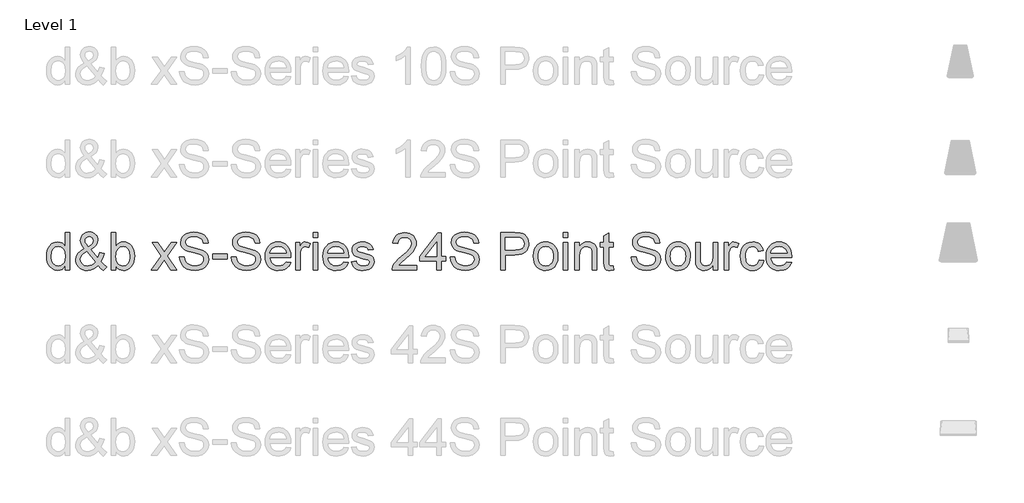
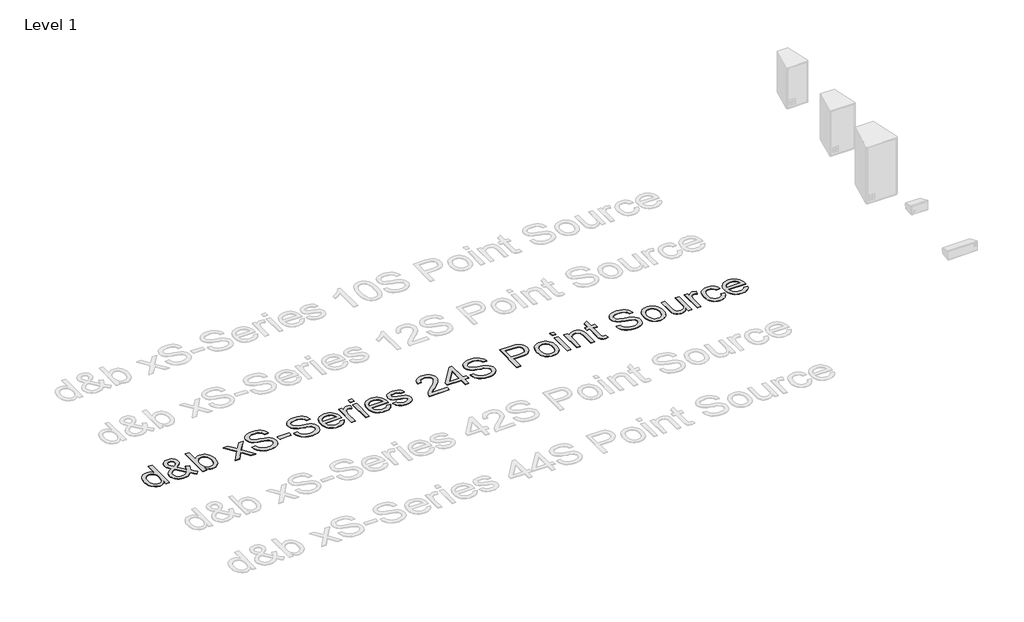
# One storey, part 45 of 55: 1 proxy.
"""IFC4 building model written with IfcOpenShell, lengths in millimetres."""

from ifc_helpers import new_model, si_unit, origin, origin_with_axes, place, context, project, spatial, polyline, outline, extrude, element, save

model = new_model("IFC4")

# Units and contexts
model_context = context("Model", 3, world=origin())
ifc_project = project(units=[si_unit("LENGTHUNIT", "METRE", prefix="MILLI")], contexts=[model_context])

# Site, building, storey
site = spatial("IfcSite", under=ifc_project)
building = spatial("IfcBuilding", under=site)
storey = spatial("IfcBuildingStorey", under=building, Name="Level 1", Elevation=0.0)

# Proxy
placement = place(None, origin())
element("IfcBuildingElementProxy", 1, Name="400mm Arial", ObjectType="400mm Arial", at=placement, inside=storey, context=model_context, shape_type="SweptSolid", body=[
    extrude(outline(polyline([(-20879.8211974, 11351.3054836), (-20879.8211974, 11398.6886846), (-20894.8491769, 11375.2116819), (-20913.0532043, 11358.4423943), (-20934.4332796, 11348.3808217), (-20958.9894028, 11345.0269642), (-20991.4611202, 11349.8830065), (-21021.1859854, 11364.4511335), (-21046.3491139, 11387.7135384), (-21065.1356211, 11418.6524142), (-21076.8342686, 11456.0169621), (-21080.7338177, 11498.5563835), (-21077.1408369, 11540.5685074), (-21066.3618944, 11578.5094038), (-21048.4092531, 11610.2208318), (-21023.2951755, 11633.5445503), (-20992.9203855, 11647.8919481), (-20959.1856065, 11652.674414), (-20934.6110892, 11649.2531115), (-20912.8815261, 11638.9892038), (-20894.4629008, 11623.2561171), (-20879.8211974, 11603.4272776), (-20879.8211974, 11753.1307242), (-20829.5930424, 11753.1307242), (-20829.5930424, 11351.3054836), (-20879.8211974, 11351.3054836)]), holes=[polyline([(-21030.5056627, 11498.7525872), (-21029.089317, 11474.3957335), (-21024.8402799, 11453.3191608), (-21017.7585515, 11435.5228693), (-21007.8441318, 11421.0068589), (-20983.1469871, 11401.6930542), (-20969.2717046, 11396.864603), (-20954.3786151, 11395.2551193), (-20939.415015, 11396.7910266), (-20925.6225058, 11401.3987486), (-20901.5507606, 11419.8296365), (-20892.0440767, 11433.7386416), (-20885.2535882, 11450.8911397), (-20879.8211974, 11494.9266145), (-20885.3516901, 11543.0701049), (-20892.2648059, 11561.6052261), (-20901.9431681, 11576.4492646), (-20913.6448812, 11587.8229496), (-20926.6280499, 11595.9470104), (-20940.8926743, 11600.8214468), (-20956.4387543, 11602.4462589), (-20971.6261493, 11600.8858262), (-20985.5014319, 11596.2045278), (-20998.064602, 11588.4023638), (-21009.3156597, 11577.4793342), (-21018.586286, 11563.1963157), (-21025.2081619, 11545.3141851), (-21030.5056627, 11498.7525872)])]), origin_with_axes(), (0.0, 0.0, 1.0), 5.0),
    extrude(outline(polyline([(-20523.809528, 11400.9450275), (-20549.3405384, 11376.4808748), (-20577.0788409, 11359.00648), (-20607.0734862, 11348.5218431), (-20639.3735254, 11345.0269642), (-20668.6814577, 11347.6144009), (-20694.8010793, 11355.376711), (-20717.7323904, 11368.3138945), (-20737.4753908, 11386.4259514), (-20750.308341, 11403.7961129), (-20759.4747341, 11422.1595558), (-20764.9745699, 11441.5162802), (-20766.8078485, 11461.8662859), (-20760.9094739, 11497.0603301), (-20743.2143499, 11528.6736562), (-20713.796053, 11556.6817387), (-20672.7281596, 11581.0600523), (-20694.6416638, 11609.4114914), (-20707.7995765, 11631.8768186), (-20714.3846642, 11651.0557332), (-20716.5796934, 11669.5479349), (-20714.8506481, 11687.1020374), (-20709.6635119, 11703.4666548), (-20701.018285, 11718.6417871), (-20688.9149674, 11732.6274343), (-20674.1935562, 11744.3444759), (-20657.6940487, 11752.7137912), (-20639.4164449, 11757.7353805), (-20619.3607448, 11759.4092436), (-20600.212487, 11757.8089569), (-20582.8913764, 11753.0080968), (-20567.397413, 11745.0066634), (-20553.7305969, 11733.8046567), (-20542.5715097, 11720.3585698), (-20534.6007332, 11705.6248959), (-20529.8182672, 11689.603635), (-20528.2241119, 11672.2947871), (-20532.9452642, 11644.31123), (-20547.108721, 11618.436863), (-20570.7144823, 11594.6716861), (-20603.7625482, 11573.0156993), (-20531.069066, 11482.4676776), (-20518.6837055, 11508.3420446), (-20509.3885538, 11538.0914353), (-20459.1603987, 11527.2021282), (-20474.6114425, 11480.6773185), (-20494.6732739, 11444.5022557), (-20466.1256311, 11411.1966724), (-20434.0463211, 11383.6790991), (-20471.7174374, 11345.0269642), (-20497.3465498, 11368.47331), (-20523.809528, 11400.9450275)]), holes=[polyline([(-20557.4584678, 11437.1446158), (-20647.1235727, 11549.0788442), (-20681.3733865, 11527.2266537), (-20702.305872, 11506.9931439), (-20713.0112381, 11487.6670765), (-20716.5796934, 11468.5372127), (-20711.6991256, 11444.8456122), (-20697.0574222, 11420.2710949), (-20686.2784798, 11409.3266056), (-20673.4639236, 11401.5091132), (-20658.6137537, 11396.8186177), (-20641.7279702, 11395.2551193), (-20619.0051256, 11398.1736498), (-20595.5710425, 11406.9292412), (-20574.1480476, 11420.3201459), (-20557.4584678, 11437.1446158)]), polyline([(-20629.1709314, 11604.7026019), (-20602.9041569, 11621.3676562), (-20587.8700461, 11635.8499441), (-20580.8067117, 11649.9398245), (-20578.452267, 11665.4276565), (-20581.5547385, 11682.9756277), (-20590.862153, 11696.9674062), (-20604.829406, 11706.1276679), (-20621.9113933, 11709.1810885), (-20639.3612626, 11706.1521934), (-20653.6473468, 11697.0655081), (-20663.1754905, 11683.6132898), (-20666.3515384, 11667.4877957), (-20662.0350563, 11649.0936959), (-20648.9875082, 11628.639457), (-20629.1709314, 11604.7026019)])]), origin_with_axes(), (0.0, 0.0, 1.0), 5.0),
    extrude(outline(polyline([(-20333.590011, 11351.3054836), (-20383.8181661, 11351.3054836), (-20383.8181661, 11753.1307242), (-20333.590011, 11753.1307242), (-20333.590011, 11604.1139907), (-20317.0721094, 11625.3591759), (-20298.4204923, 11640.5343082), (-20277.6351595, 11649.6393876), (-20254.7161112, 11652.674414), (-20228.8417442, 11649.9398245), (-20204.3898543, 11641.736056), (-20182.758393, 11628.5781433), (-20165.3453119, 11610.9811212), (-20151.6968898, 11589.116668), (-20141.3594058, 11563.1564619), (-20134.8478945, 11534.1796234), (-20132.6773907, 11503.265273), (-20134.9245365, 11467.5929822), (-20141.6659741, 11436.2126481), (-20152.9017034, 11409.1242705), (-20168.6317244, 11386.3278495), (-20187.5132678, 11368.2587122), (-20208.2035643, 11355.3521855), (-20230.702614, 11347.6082695), (-20255.0104168, 11345.0269642), (-20278.6836232, 11348.3562962), (-20299.671291, 11358.3442924), (-20317.9734203, 11374.9909527), (-20333.590011, 11398.2962771), (-20333.590011, 11351.3054836)]), holes=[polyline([(-20333.590011, 11500.9108283), (-20330.1564457, 11459.0213318), (-20319.8557498, 11430.6698927), (-20307.6849872, 11415.1759293), (-20293.5399244, 11404.1088126), (-20277.4205617, 11397.4685426), (-20259.3268989, 11395.2551193), (-20244.3050508, 11396.8860628), (-20230.3377977, 11401.7788933), (-20217.4251396, 11409.9336109), (-20205.5670767, 11421.3502155), (-20195.6526569, 11435.9980502), (-20188.5709285, 11453.8464584), (-20184.3218914, 11474.8954399), (-20182.9055458, 11499.1449947), (-20188.3379366, 11545.1057186), (-20195.1284251, 11562.8989445), (-20204.6351089, 11577.2340795), (-20216.0670419, 11588.264408), (-20228.6332778, 11596.1432141), (-20242.3338164, 11600.8704977), (-20257.1686579, 11602.4462589), (-20272.190506, 11600.8153154), (-20286.1577591, 11595.9224849), (-20299.0704171, 11587.7677673), (-20310.9284801, 11576.3511628), (-20320.8428999, 11561.8504808), (-20327.9246283, 11544.443531), (-20332.1736653, 11524.1303135), (-20333.590011, 11500.9108283)])]), origin_with_axes(), (0.0, 0.0, 1.0), 5.0),
    extrude(outline(polyline([(-19950.6003285, 11351.3054836), (-19843.2768878, 11499.7336059), (-19944.3218092, 11646.3958946), (-19884.0872638, 11646.3958946), (-19835.3306367, 11575.6644497), (-19812.4729021, 11542.4079173), (-19792.6563253, 11569.6802359), (-19737.1306695, 11646.3958946), (-19676.6999204, 11646.3958946), (-19782.8461387, 11499.635504), (-19680.623995, 11351.3054836), (-19740.9566422, 11351.3054836), (-19802.5646137, 11440.5781811), (-19813.7482263, 11456.9611926), (-19890.1695795, 11351.3054836), (-19950.6003285, 11351.3054836)])), origin_with_axes(), (0.0, 0.0, 1.0), 5.0),
    extrude(outline(polyline([(-19649.2313981, 11489.43291), (-19599.003243, 11489.43291), (-19593.2397584, 11461.5597175), (-19582.8164352, 11439.155704), (-19566.556051, 11421.3747409), (-19543.2813835, 11407.3706996), (-19514.8318425, 11398.2840144), (-19483.0468381, 11395.2551193), (-19455.063281, 11397.5482504), (-19430.5623402, 11404.4276437), (-19410.7089752, 11415.3169507), (-19396.6681457, 11429.6398231), (-19388.3172244, 11446.0841483), (-19385.533584, 11463.3378138), (-19387.6182486, 11480.150021), (-19393.8722425, 11494.6813598), (-19406.5764341, 11507.0789831), (-19428.0116917, 11517.4900435), (-19501.1466323, 11536.6689582), (-19549.1552327, 11549.360887), (-19579.8733793, 11561.4396792), (-19604.8770922, 11578.3377255), (-19622.5967416, 11598.8164899), (-19633.1549549, 11622.434514), (-19636.6743593, 11648.7503394), (-19632.3210891, 11678.1686363), (-19619.2612782, 11705.6003704), (-19597.8382834, 11728.8505125), (-19568.395461, 11745.7240333), (-19533.054264, 11755.987941), (-19493.9361452, 11759.4092436), (-19451.5561394, 11755.8285255), (-19414.4736342, 11745.0863712), (-19384.013005, 11727.40351), (-19361.4986269, 11703.000671), (-19347.249331, 11673.3984331), (-19341.5839483, 11640.1173753), (-19391.8121033, 11640.1173753), (-19401.0336787, 11670.0874951), (-19409.3968627, 11681.9455581), (-19420.2616443, 11691.7189564), (-19450.3053406, 11704.8155555), (-19491.9741079, 11709.1810885), (-19534.6238939, 11704.8646064), (-19550.9271976, 11699.4690038), (-19563.8827752, 11691.9151602), (-19580.805347, 11672.8588728), (-19586.4462043, 11650.2218674), (-19582.4485532, 11630.9203254), (-19570.4556002, 11615.3957052), (-19542.1041611, 11601.5142912), (-19488.4424407, 11587.3385717), (-19433.0639377, 11573.8740907), (-19399.5621507, 11562.1263923), (-19370.9286687, 11543.9039708), (-19350.9526764, 11521.4141181), (-19339.2172408, 11494.902089), (-19335.3054289, 11464.6131381), (-19339.805852, 11433.6497368), (-19353.3071212, 11404.5257455), (-19375.2574136, 11379.4607189), (-19405.1049061, 11360.6742117), (-19440.9979261, 11348.9387761), (-19481.0848008, 11345.0269642), (-19530.2951491, 11349.2453444), (-19570.7989567, 11361.900485), (-19603.0622077, 11383.041437), (-19627.5508858, 11412.7172513), (-19643.2717098, 11448.8677887), (-19649.2313981, 11489.43291)])), origin_with_axes(), (0.0, 0.0, 1.0), 5.0),
    extrude(outline(polyline([(-19291.3557932, 11470.5973519), (-19291.3557932, 11520.825507), (-19134.3928086, 11520.825507), (-19134.3928086, 11470.5973519), (-19291.3557932, 11470.5973519)])), origin_with_axes(), (0.0, 0.0, 1.0), 5.0),
    extrude(outline(polyline([(-19090.4431729, 11489.43291), (-19040.2150178, 11489.43291), (-19034.4515332, 11461.5597175), (-19024.02821, 11439.155704), (-19007.7678258, 11421.3747409), (-18984.4931583, 11407.3706996), (-18956.0436173, 11398.2840144), (-18924.2586129, 11395.2551193), (-18896.2750558, 11397.5482504), (-18871.774115, 11404.4276437), (-18851.9207499, 11415.3169507), (-18837.8799205, 11429.6398231), (-18829.5289992, 11446.0841483), (-18826.7453587, 11463.3378138), (-18828.8300234, 11480.150021), (-18835.0840173, 11494.6813598), (-18847.7882089, 11507.0789831), (-18869.2234665, 11517.4900435), (-18942.3584071, 11536.6689582), (-18990.3670075, 11549.360887), (-19021.0851541, 11561.4396792), (-19046.088867, 11578.3377255), (-19063.8085164, 11598.8164899), (-19074.3667297, 11622.434514), (-19077.8861341, 11648.7503394), (-19073.5328638, 11678.1686363), (-19060.473053, 11705.6003704), (-19039.0500582, 11728.8505125), (-19009.6072358, 11745.7240333), (-18974.2660388, 11755.987941), (-18935.14792, 11759.4092436), (-18892.7679141, 11755.8285255), (-18855.685409, 11745.0863712), (-18825.2247798, 11727.40351), (-18802.7104017, 11703.000671), (-18788.4611058, 11673.3984331), (-18782.7957231, 11640.1173753), (-18833.0238781, 11640.1173753), (-18842.2454535, 11670.0874951), (-18850.6086375, 11681.9455581), (-18861.4734191, 11691.7189564), (-18891.5171154, 11704.8155555), (-18933.1858827, 11709.1810885), (-18975.8356687, 11704.8646064), (-18992.1389724, 11699.4690038), (-19005.09455, 11691.9151602), (-19022.0171218, 11672.8588728), (-19027.657979, 11650.2218674), (-19023.660328, 11630.9203254), (-19011.667375, 11615.3957052), (-18983.3159359, 11601.5142912), (-18929.6542155, 11587.3385717), (-18874.2757125, 11573.8740907), (-18840.7739255, 11562.1263923), (-18812.1404435, 11543.9039708), (-18792.1644512, 11521.4141181), (-18780.4290156, 11494.902089), (-18776.5172037, 11464.6131381), (-18781.0176267, 11433.6497368), (-18794.518896, 11404.5257455), (-18816.4691883, 11379.4607189), (-18846.3166809, 11360.6742117), (-18882.2097009, 11348.9387761), (-18922.2965756, 11345.0269642), (-18971.5069238, 11349.2453444), (-19012.0107315, 11361.900485), (-19044.2739825, 11383.041437), (-19068.7626606, 11412.7172513), (-19084.4834846, 11448.8677887), (-19090.4431729, 11489.43291)])), origin_with_axes(), (0.0, 0.0, 1.0), 5.0),
    extrude(outline(polyline([(-18500.850962, 11439.204755), (-18451.6038255, 11432.9262356), (-18459.1546035, 11413.2016293), (-18469.3480004, 11395.819205), (-18482.1840164, 11380.7789628), (-18497.6626513, 11368.0809026), (-18515.6244897, 11357.9948045), (-18535.9101161, 11350.7904488), (-18583.4527326, 11345.0269642), (-18614.618469, 11347.5132333), (-18642.3874282, 11354.9720408), (-18666.7596104, 11367.4033865), (-18687.7350155, 11384.8072706), (-18704.602405, 11406.699315), (-18716.6505403, 11432.5951418), (-18723.8794215, 11462.4947509), (-18726.2890486, 11496.3981425), (-18723.8548961, 11531.4511652), (-18716.5524385, 11562.3471215), (-18704.3816758, 11589.0860112), (-18687.342608, 11611.6678343), (-18666.4223852, 11629.6082129), (-18642.6081574, 11642.4227691), (-18615.8999246, 11650.1115028), (-18586.2976867, 11652.674414), (-18557.6488763, 11650.1176342), (-18531.7407868, 11642.4472946), (-18508.5734182, 11629.6633952), (-18488.1467704, 11611.7659362), (-18471.472519, 11589.233164), (-18459.5623394, 11562.5433252), (-18452.4162316, 11531.6964199), (-18450.0341957, 11496.6924481), (-18450.3285013, 11483.1543906), (-18676.0608935, 11483.1543906), (-18673.1515601, 11463.1109533), (-18667.3666157, 11445.5568507), (-18658.7060604, 11430.492083), (-18647.1698942, 11417.9166502), (-18633.3957791, 11408.0022304), (-18618.0213774, 11400.920502), (-18582.4717139, 11395.2551193), (-18555.7389556, 11397.8793442), (-18533.2245775, 11405.7520189), (-18514.9285796, 11419.3636527), (-18500.850962, 11439.204755)]), holes=[polyline([(-18676.0608935, 11533.3825457), (-18500.2623508, 11533.3825457), (-18507.0559049, 11559.9191003), (-18520.3732332, 11578.9018113), (-18534.0707061, 11589.2025071), (-18549.65664, 11596.560147), (-18567.1310348, 11600.974731), (-18586.4938904, 11602.4462589), (-18620.3512967, 11597.7496321), (-18648.3471166, 11583.6597517), (-18667.8080741, 11561.6971966), (-18676.0608935, 11533.3825457)])]), origin_with_axes(), (0.0, 0.0, 1.0), 5.0),
    extrude(outline(polyline([(-18399.8060406, 11351.3054836), (-18399.8060406, 11646.3958946), (-18355.8564049, 11646.3958946), (-18355.8564049, 11602.7405645), (-18339.6205462, 11628.0508458), (-18324.6600117, 11642.9623293), (-18309.6504263, 11650.2463929), (-18293.2674148, 11652.674414), (-18268.2514391, 11648.7993903), (-18242.843056, 11637.1743193), (-18259.618475, 11592.1455631), (-18277.2768108, 11599.871085), (-18294.9351465, 11602.4462589), (-18309.9324692, 11599.9691868), (-18323.3356365, 11592.5379705), (-18334.1636299, 11580.7166958), (-18341.4354307, 11565.0694482), (-18347.5422718, 11537.0123147), (-18349.5778855, 11506.4045327), (-18349.5778855, 11351.3054836), (-18399.8060406, 11351.3054836)])), origin_with_axes(), (0.0, 0.0, 1.0), 5.0),
    extrude(outline(polyline([(-18211.4504591, 11702.9025691), (-18211.4504591, 11753.1307242), (-18161.222304, 11753.1307242), (-18161.222304, 11702.9025691), (-18211.4504591, 11702.9025691)])), origin_with_axes(), (0.0, 0.0, 1.0), 5.0),
    extrude(outline(polyline([(-18211.4504591, 11351.3054836), (-18211.4504591, 11646.3958946), (-18161.222304, 11646.3958946), (-18161.222304, 11351.3054836), (-18211.4504591, 11351.3054836)])), origin_with_axes(), (0.0, 0.0, 1.0), 5.0),
    extrude(outline(polyline([(-17879.2775429, 11439.204755), (-17830.0304065, 11432.9262356), (-17837.5811844, 11413.2016293), (-17847.7745814, 11395.819205), (-17860.6105973, 11380.7789628), (-17876.0892323, 11368.0809026), (-17894.0510707, 11357.9948045), (-17914.336697, 11350.7904488), (-17961.8793136, 11345.0269642), (-17993.0450499, 11347.5132333), (-18020.8140092, 11354.9720408), (-18045.1861914, 11367.4033865), (-18066.1615965, 11384.8072706), (-18083.0289859, 11406.699315), (-18095.0771213, 11432.5951418), (-18102.3060025, 11462.4947509), (-18104.7156295, 11496.3981425), (-18102.281477, 11531.4511652), (-18094.9790194, 11562.3471215), (-18082.8082567, 11589.0860112), (-18065.769189, 11611.6678343), (-18044.8489662, 11629.6082129), (-18021.0347384, 11642.4227691), (-17994.3265055, 11650.1115028), (-17964.7242676, 11652.674414), (-17936.0754573, 11650.1176342), (-17910.1673678, 11642.4472946), (-17886.9999991, 11629.6633952), (-17866.5733513, 11611.7659362), (-17849.8990999, 11589.233164), (-17837.9889203, 11562.5433252), (-17830.8428126, 11531.6964199), (-17828.4607766, 11496.6924481), (-17828.7550822, 11483.1543906), (-18054.4874745, 11483.1543906), (-18051.578141, 11463.1109533), (-18045.7931967, 11445.5568507), (-18037.1326413, 11430.492083), (-18025.5964751, 11417.9166502), (-18011.8223601, 11408.0022304), (-17996.4479584, 11400.920502), (-17960.8982949, 11395.2551193), (-17934.1655366, 11397.8793442), (-17911.6511585, 11405.7520189), (-17893.3551606, 11419.3636527), (-17879.2775429, 11439.204755)]), holes=[polyline([(-18054.4874745, 11533.3825457), (-17878.6889317, 11533.3825457), (-17885.4824859, 11559.9191003), (-17898.7998141, 11578.9018113), (-17912.4972871, 11589.2025071), (-17928.0832209, 11596.560147), (-17945.5576157, 11600.974731), (-17964.9204714, 11602.4462589), (-17998.7778777, 11597.7496321), (-18026.7736975, 11583.6597517), (-18046.234655, 11561.6971966), (-18054.4874745, 11533.3825457)])]), origin_with_axes(), (0.0, 0.0, 1.0), 5.0),
    extrude(outline(polyline([(-17797.0681797, 11439.204755), (-17746.8400246, 11445.4832743), (-17738.918299, 11423.9989658), (-17723.5898825, 11408.2045655), (-17700.7566734, 11398.4924808), (-17670.3205696, 11395.2551193), (-17640.2523479, 11398.2227007), (-17619.1113959, 11407.125445), (-17606.6034081, 11420.0258403), (-17602.4340788, 11434.9863747), (-17606.6279335, 11447.7886682), (-17619.2094978, 11457.5498038), (-17670.9091808, 11471.8726761), (-17746.545719, 11496.4471934), (-17765.6878455, 11508.7957657), (-17779.5569967, 11525.141989), (-17787.9814944, 11544.443531), (-17790.7896603, 11565.6580594), (-17788.5333174, 11585.119017), (-17781.7642887, 11603.0839211), (-17771.0957109, 11618.8415332), (-17757.1407205, 11631.6806148), (-17725.2085633, 11646.5430474), (-17704.3251287, 11651.1415724), (-17681.9946916, 11652.674414), (-17649.302245, 11650.2096047), (-17620.8772295, 11642.8151766), (-17598.0194949, 11631.214631), (-17582.0288908, 11616.1314692), (-17571.4338893, 11596.4497824), (-17564.7629625, 11571.053662), (-17614.9911176, 11564.7751426), (-17621.3309506, 11580.5818057), (-17633.8757267, 11592.4889196), (-17652.748073, 11599.9569241), (-17678.070617, 11602.4462589), (-17706.9125654, 11600.0672887), (-17726.140531, 11592.930378), (-17736.9562617, 11582.6296821), (-17740.5615053, 11570.7593564), (-17734.5772915, 11556.1421785), (-17715.8398352, 11545.0566677), (-17672.5769125, 11534.3635644), (-17598.8533607, 11510.7210148), (-17579.3801404, 11499.4147748), (-17564.6158097, 11483.9392056), (-17555.3083952, 11464.2452561), (-17552.2059237, 11440.2838755), (-17555.8479555, 11415.5131545), (-17566.7740507, 11392.2139614), (-17584.5672766, 11372.2134436), (-17608.8107, 11357.3387483), (-17638.0941069, 11348.1049102), (-17671.0072827, 11345.0269642), (-17698.040478, 11346.5107549), (-17721.6523707, 11350.962127), (-17741.8429609, 11358.3810806), (-17758.6122485, 11368.7676156), (-17772.3097214, 11382.0726811), (-17783.2848676, 11398.2472262), (-17791.5376871, 11417.2912508), (-17797.0681797, 11439.204755)])), origin_with_axes(), (0.0, 0.0, 1.0), 5.0),
    extrude(outline(polyline([(-17093.8740087, 11401.5336386), (-17093.8740087, 11351.3054836), (-17357.5718228, 11351.3054836), (-17356.4681768, 11368.9883448), (-17352.1762202, 11385.9354421), (-17339.778597, 11412.9992942), (-17321.6174891, 11439.2538059), (-17295.3629774, 11466.7345909), (-17258.6851425, 11497.477263), (-17204.4961246, 11545.6207534), (-17172.0121444, 11581.1581542), (-17155.7885485, 11610.0001026), (-17150.3806831, 11638.0572361), (-17155.4942429, 11663.2081018), (-17170.8349221, 11684.1160619), (-17194.4161579, 11698.2059423), (-17224.2513878, 11702.9025691), (-17255.582671, 11698.3163069), (-17279.9241964, 11684.5575203), (-17295.6327576, 11662.7053298), (-17301.0651483, 11633.8388559), (-17351.2933034, 11640.1173753), (-17346.9737557, 11666.0469245), (-17339.1164094, 11688.7023241), (-17327.7212646, 11708.0835739), (-17312.7883213, 11724.1906739), (-17294.6609359, 11736.8519459), (-17273.6824652, 11745.8957116), (-17249.8529089, 11751.321971), (-17223.1722672, 11753.1307242), (-17196.2525022, 11751.1196359), (-17172.2941873, 11745.0863712), (-17151.2973224, 11735.03093), (-17133.2619076, 11720.9533123), (-17118.7765541, 11703.8958505), (-17108.4298729, 11684.9008768), (-17102.2218643, 11663.9683913), (-17100.152528, 11641.0983939), (-17102.3843455, 11617.0756996), (-17109.0797978, 11593.4699383), (-17120.9623862, 11569.4595067), (-17138.7556121, 11544.2228018), (-17167.1193139, 11514.0932664), (-17210.7133303, 11475.4043433), (-17268.495329, 11427.0891746), (-17291.1568599, 11401.5336386), (-17093.8740087, 11401.5336386)])), origin_with_axes(), (0.0, 0.0, 1.0), 5.0),
    extrude(outline(polyline([(-16880.4043496, 11351.3054836), (-16880.4043496, 11445.4832743), (-17062.4814117, 11445.4832743), (-17062.4814117, 11495.7114294), (-16867.8473108, 11746.8522048), (-16830.1761945, 11746.8522048), (-16830.1761945, 11495.7114294), (-16779.9480394, 11495.7114294), (-16779.9480394, 11445.4832743), (-16830.1761945, 11445.4832743), (-16830.1761945, 11351.3054836), (-16880.4043496, 11351.3054836)]), holes=[polyline([(-16880.4043496, 11495.7114294), (-16880.4043496, 11650.9085804), (-17000.6772366, 11495.7114294), (-16880.4043496, 11495.7114294)])]), origin_with_axes(), (0.0, 0.0, 1.0), 5.0),
    extrude(outline(polyline([(-16735.9984038, 11489.43291), (-16685.7702487, 11489.43291), (-16680.0067641, 11461.5597175), (-16669.5834409, 11439.155704), (-16653.3230567, 11421.3747409), (-16630.0483891, 11407.3706996), (-16601.5988482, 11398.2840144), (-16569.8138438, 11395.2551193), (-16541.8302867, 11397.5482504), (-16517.3293458, 11404.4276437), (-16497.4759808, 11415.3169507), (-16483.4351513, 11429.6398231), (-16475.08423, 11446.0841483), (-16472.3005896, 11463.3378138), (-16474.3852543, 11480.150021), (-16480.6392482, 11494.6813598), (-16493.3434397, 11507.0789831), (-16514.7786973, 11517.4900435), (-16587.913638, 11536.6689582), (-16635.9222383, 11549.360887), (-16666.6403849, 11561.4396792), (-16691.6440979, 11578.3377255), (-16709.3637473, 11598.8164899), (-16719.9219606, 11622.434514), (-16723.441365, 11648.7503394), (-16719.0880947, 11678.1686363), (-16706.0282839, 11705.6003704), (-16684.605289, 11728.8505125), (-16655.1624667, 11745.7240333), (-16619.8212697, 11755.987941), (-16580.7031509, 11759.4092436), (-16538.323145, 11755.8285255), (-16501.2406399, 11745.0863712), (-16470.7800107, 11727.40351), (-16448.2656326, 11703.000671), (-16434.0163367, 11673.3984331), (-16428.3509539, 11640.1173753), (-16478.579109, 11640.1173753), (-16487.8006843, 11670.0874951), (-16496.1638684, 11681.9455581), (-16507.02865, 11691.7189564), (-16537.0723462, 11704.8155555), (-16578.7411136, 11709.1810885), (-16621.3908995, 11704.8646064), (-16637.6942033, 11699.4690038), (-16650.6497809, 11691.9151602), (-16667.5723527, 11672.8588728), (-16673.2132099, 11650.2218674), (-16669.2155589, 11630.9203254), (-16657.2226059, 11615.3957052), (-16628.8711668, 11601.5142912), (-16575.2094464, 11587.3385717), (-16519.8309434, 11573.8740907), (-16486.3291564, 11562.1263923), (-16457.6956744, 11543.9039708), (-16437.7196821, 11521.4141181), (-16425.9842464, 11494.902089), (-16422.0724345, 11464.6131381), (-16426.5728576, 11433.6497368), (-16440.0741268, 11404.5257455), (-16462.0244192, 11379.4607189), (-16491.8719118, 11360.6742117), (-16527.7649318, 11348.9387761), (-16567.8518065, 11345.0269642), (-16617.0621547, 11349.2453444), (-16657.5659624, 11361.900485), (-16689.8292134, 11383.041437), (-16714.3178915, 11412.7172513), (-16730.0387154, 11448.8677887), (-16735.9984038, 11489.43291)])), origin_with_axes(), (0.0, 0.0, 1.0), 5.0),
    extrude(outline(polyline([(-16189.7672173, 11351.3054836), (-16189.7672173, 11753.1307242), (-16040.8485857, 11753.1307242), (-15980.8102441, 11749.3047514), (-15954.0406975, 11742.155578), (-15932.004566, 11730.5182442), (-15914.2603911, 11713.8654526), (-15900.3667144, 11691.6699055), (-15891.3903938, 11665.4889702), (-15888.3982869, 11636.8800137), (-15890.4185722, 11612.2135259), (-15896.479428, 11589.5213382), (-15906.5808545, 11568.8034505), (-15920.7228515, 11550.0598628), (-15940.1378238, 11534.5229799), (-15966.0581761, 11523.4252064), (-15998.4839082, 11516.7665423), (-16037.4150204, 11514.5469876), (-16139.5390622, 11514.5469876), (-16139.5390622, 11351.3054836), (-16189.7672173, 11351.3054836)]), holes=[polyline([(-16139.5390622, 11564.7751426), (-16034.4719644, 11564.7751426), (-15989.9337175, 11569.3859303), (-15973.3299768, 11575.1494149), (-15960.5031579, 11583.2182933), (-15950.9320947, 11593.3779678), (-15944.0956209, 11605.4138404), (-15938.6264419, 11635.1141801), (-15941.8515408, 11657.6776092), (-15951.5268372, 11676.709371), (-15966.4505835, 11691.0322434), (-15985.4210317, 11699.4690038), (-16035.6491868, 11702.9025691), (-16139.5390622, 11702.9025691), (-16139.5390622, 11564.7751426)])]), origin_with_axes(), (0.0, 0.0, 1.0), 5.0),
    extrude(outline(polyline([(-15838.1701318, 11498.8506891), (-15835.4539364, 11537.067497), (-15827.3053502, 11569.999067), (-15813.7243732, 11597.6453989), (-15794.7110054, 11620.0064928), (-15775.5688789, 11634.2987084), (-15754.4401897, 11644.5074337), (-15731.3249377, 11650.6326689), (-15706.2231229, 11652.674414), (-15678.5124116, 11650.1881449), (-15653.456582, 11642.7293374), (-15631.0556342, 11630.2979917), (-15611.3095681, 11612.8941076), (-15595.193271, 11591.1062964), (-15583.6816303, 11565.5231694), (-15576.7746458, 11536.1447264), (-15574.4723177, 11502.9709675), (-15578.5435451, 11452.2277776), (-15590.7572273, 11413.6001681), (-15610.7577451, 11384.6723805), (-15638.1894792, 11363.0286565), (-15670.7715613, 11349.5273873), (-15706.2231229, 11345.0269642), (-15734.3385043, 11347.5040363), (-15759.6273258, 11354.9352526), (-15782.0895873, 11367.3206131), (-15801.7252888, 11384.6601178), (-15817.6699076, 11406.6594611), (-15829.058921, 11433.0243374), (-15835.8923291, 11463.7547468), (-15838.1701318, 11498.8506891)]), holes=[polyline([(-15787.9419767, 11498.948791), (-15786.4888428, 11474.5858058), (-15782.1294412, 11453.4908391), (-15774.8637718, 11435.6638907), (-15764.6918346, 11421.1049608), (-15752.3187369, 11409.7956551), (-15738.4495856, 11401.7175796), (-15723.084381, 11396.8707344), (-15706.2231229, 11395.2551193), (-15689.4477039, 11396.8799314), (-15674.1438129, 11401.7543678), (-15660.3114499, 11409.8784286), (-15647.9506148, 11421.2521136), (-15637.7786777, 11435.9551307), (-15630.5130083, 11454.0671876), (-15626.1536066, 11475.5882843), (-15624.7004727, 11500.5184208), (-15626.1628037, 11524.1088538), (-15630.5497965, 11544.6519975), (-15637.8614511, 11562.1478521), (-15648.0977676, 11576.5964174), (-15660.5045879, 11587.9057231), (-15674.3277539, 11595.9837986), (-15689.5672655, 11600.8306439), (-15706.2231229, 11602.4462589), (-15723.084381, 11600.8367752), (-15738.4495856, 11596.008324), (-15752.3187369, 11587.9609054), (-15764.6918346, 11576.6945193), (-15774.8637718, 11562.1785089), (-15782.1294412, 11544.3822174), (-15786.4888428, 11523.3056447), (-15787.9419767, 11498.948791)])]), origin_with_axes(), (0.0, 0.0, 1.0), 5.0),
    extrude(outline(polyline([(-15517.9656432, 11351.3054836), (-15517.9656432, 11646.3958946), (-15467.7374881, 11646.3958946), (-15467.7374881, 11351.3054836), (-15517.9656432, 11351.3054836)])), origin_with_axes(), (0.0, 0.0, 1.0), 5.0),
    extrude(outline(polyline([(-15517.9656432, 11702.9025691), (-15517.9656432, 11753.1307242), (-15467.7374881, 11753.1307242), (-15467.7374881, 11702.9025691), (-15517.9656432, 11702.9025691)])), origin_with_axes(), (0.0, 0.0, 1.0), 5.0),
    extrude(outline(polyline([(-15392.3952555, 11351.3054836), (-15392.3952555, 11646.3958946), (-15342.1671004, 11646.3958946), (-15342.1671004, 11605.1931112), (-15324.7172311, 11625.9661812), (-15303.7602201, 11640.8040883), (-15279.2960675, 11649.7068326), (-15251.3247731, 11652.674414), (-15226.5663148, 11650.2831811), (-15203.8925212, 11643.1094821), (-15184.9833866, 11632.0484968), (-15171.5189056, 11617.9954046), (-15162.3831694, 11600.9869937), (-15156.4602693, 11581.0600523), (-15153.8115189, 11532.4996289), (-15153.8115189, 11351.3054836), (-15204.039674, 11351.3054836), (-15204.039674, 11525.7306002), (-15205.4866765, 11551.7030691), (-15209.827684, 11570.1707452), (-15217.8352488, 11583.4022343), (-15230.281923, 11593.666142), (-15246.2357388, 11600.2512297), (-15264.7647286, 11602.4462589), (-15294.1830255, 11597.5166402), (-15319.2603149, 11582.727784), (-15329.2820336, 11570.6551232), (-15336.440404, 11554.1556157), (-15340.7354263, 11533.2292616), (-15342.1671004, 11507.8760607), (-15342.1671004, 11351.3054836), (-15392.3952555, 11351.3054836)])), origin_with_axes(), (0.0, 0.0, 1.0), 5.0),
    extrude(outline(polyline([(-14978.0129761, 11393.1949801), (-14971.7344568, 11349.8339556), (-15009.3074712, 11345.0269642), (-15033.4160046, 11347.1116288), (-15051.3931714, 11353.3656227), (-15064.097363, 11363.004131), (-15072.3869706, 11375.2423387), (-15076.9487074, 11396.2606634), (-15078.4692863, 11432.2395225), (-15078.4692863, 11596.1677396), (-15116.1404026, 11596.1677396), (-15116.1404026, 11646.3958946), (-15078.4692863, 11646.3958946), (-15078.4692863, 11718.1083582), (-15028.2411312, 11747.6370197), (-15028.2411312, 11646.3958946), (-14978.0129761, 11646.3958946), (-14978.0129761, 11596.1677396), (-15028.2411312, 11596.1677396), (-15028.2411312, 11433.7110505), (-15025.5923808, 11407.812158), (-15017.0084676, 11398.6396336), (-14999.8896921, 11395.2551193), (-14978.0129761, 11393.1949801)])), origin_with_axes(), (0.0, 0.0, 1.0), 5.0),
    extrude(outline(polyline([(-14783.3788752, 11489.43291), (-14733.1507201, 11489.43291), (-14727.3872356, 11461.5597175), (-14716.9639124, 11439.155704), (-14700.7035282, 11421.3747409), (-14677.4288606, 11407.3706996), (-14648.9793197, 11398.2840144), (-14617.1943153, 11395.2551193), (-14589.2107582, 11397.5482504), (-14564.7098173, 11404.4276437), (-14544.8564523, 11415.3169507), (-14530.8156228, 11429.6398231), (-14522.4647015, 11446.0841483), (-14519.6810611, 11463.3378138), (-14521.7657257, 11480.150021), (-14528.0197196, 11494.6813598), (-14540.7239112, 11507.0789831), (-14562.1591688, 11517.4900435), (-14635.2941094, 11536.6689582), (-14683.3027098, 11549.360887), (-14714.0208564, 11561.4396792), (-14739.0245693, 11578.3377255), (-14756.7442188, 11598.8164899), (-14767.302432, 11622.434514), (-14770.8218365, 11648.7503394), (-14766.4685662, 11678.1686363), (-14753.4087554, 11705.6003704), (-14731.9857605, 11728.8505125), (-14702.5429382, 11745.7240333), (-14667.2017411, 11755.987941), (-14628.0836223, 11759.4092436), (-14585.7036165, 11755.8285255), (-14548.6211114, 11745.0863712), (-14518.1604822, 11727.40351), (-14495.6461041, 11703.000671), (-14481.3968081, 11673.3984331), (-14475.7314254, 11640.1173753), (-14525.9595805, 11640.1173753), (-14535.1811558, 11670.0874951), (-14543.5443398, 11681.9455581), (-14554.4091214, 11691.7189564), (-14584.4528177, 11704.8155555), (-14626.121585, 11709.1810885), (-14668.771371, 11704.8646064), (-14685.0746747, 11699.4690038), (-14698.0302523, 11691.9151602), (-14714.9528241, 11672.8588728), (-14720.5936814, 11650.2218674), (-14716.5960304, 11630.9203254), (-14704.6030773, 11615.3957052), (-14676.2516382, 11601.5142912), (-14622.5899179, 11587.3385717), (-14567.2114149, 11573.8740907), (-14533.7096278, 11562.1263923), (-14505.0761459, 11543.9039708), (-14485.1001535, 11521.4141181), (-14473.3647179, 11494.902089), (-14469.452906, 11464.6131381), (-14473.9533291, 11433.6497368), (-14487.4545983, 11404.5257455), (-14509.4048907, 11379.4607189), (-14539.2523832, 11360.6742117), (-14575.1454032, 11348.9387761), (-14615.232278, 11345.0269642), (-14664.4426262, 11349.2453444), (-14704.9464339, 11361.900485), (-14737.2096848, 11383.041437), (-14761.698363, 11412.7172513), (-14777.4191869, 11448.8677887), (-14783.3788752, 11489.43291)])), origin_with_axes(), (0.0, 0.0, 1.0), 5.0),
    extrude(outline(polyline([(-14412.9462315, 11498.8506891), (-14410.2300362, 11537.067497), (-14402.08145, 11569.999067), (-14388.500473, 11597.6453989), (-14369.4871052, 11620.0064928), (-14350.3449787, 11634.2987084), (-14329.2162894, 11644.5074337), (-14306.1010374, 11650.6326689), (-14280.9992226, 11652.674414), (-14253.2885113, 11650.1881449), (-14228.2326818, 11642.7293374), (-14205.8317339, 11630.2979917), (-14186.0856679, 11612.8941076), (-14169.9693708, 11591.1062964), (-14158.45773, 11565.5231694), (-14151.5507456, 11536.1447264), (-14149.2484174, 11502.9709675), (-14153.3196448, 11452.2277776), (-14165.5333271, 11413.6001681), (-14185.5338449, 11384.6723805), (-14212.965579, 11363.0286565), (-14245.547661, 11349.5273873), (-14280.9992226, 11345.0269642), (-14309.1146041, 11347.5040363), (-14334.4034256, 11354.9352526), (-14356.8656871, 11367.3206131), (-14376.5013886, 11384.6601178), (-14392.4460074, 11406.6594611), (-14403.8350208, 11433.0243374), (-14410.6684289, 11463.7547468), (-14412.9462315, 11498.8506891)]), holes=[polyline([(-14362.7180765, 11498.948791), (-14361.2649426, 11474.5858058), (-14356.9055409, 11453.4908391), (-14349.6398715, 11435.6638907), (-14339.4679344, 11421.1049608), (-14327.0948366, 11409.7956551), (-14313.2256854, 11401.7175796), (-14297.8604807, 11396.8707344), (-14280.9992226, 11395.2551193), (-14264.2238036, 11396.8799314), (-14248.9199126, 11401.7543678), (-14235.0875496, 11409.8784286), (-14222.7267146, 11421.2521136), (-14212.5547774, 11435.9551307), (-14205.289108, 11454.0671876), (-14200.9297064, 11475.5882843), (-14199.4765725, 11500.5184208), (-14200.9389034, 11524.1088538), (-14205.3258962, 11544.6519975), (-14212.6375509, 11562.1478521), (-14222.8738674, 11576.5964174), (-14235.2806877, 11587.9057231), (-14249.1038536, 11595.9837986), (-14264.3433653, 11600.8306439), (-14280.9992226, 11602.4462589), (-14297.8604807, 11600.8367752), (-14313.2256854, 11596.008324), (-14327.0948366, 11587.9609054), (-14339.4679344, 11576.6945193), (-14349.6398715, 11562.1785089), (-14356.9055409, 11544.3822174), (-14361.2649426, 11523.3056447), (-14362.7180765, 11498.948791)])]), origin_with_axes(), (0.0, 0.0, 1.0), 5.0),
    extrude(outline(polyline([(-13904.3861614, 11351.3054836), (-13904.3861614, 11402.024148), (-13922.559532, 11377.0878801), (-13943.7250094, 11359.2762601), (-13967.8825938, 11348.5892882), (-13995.032285, 11345.0269642), (-14019.4964377, 11347.5285618), (-14042.2683332, 11355.0333545), (-14061.3736715, 11366.315069), (-14074.8381525, 11380.147432), (-14083.9003123, 11396.9473764), (-14089.798687, 11417.1318352), (-14092.7417429, 11463.8283232), (-14092.7417429, 11646.3958946), (-14042.5135879, 11646.3958946), (-14042.5135879, 11487.4708727), (-14039.47243, 11436.261699), (-14032.1515783, 11419.1797117), (-14019.6068023, 11406.1934773), (-14002.6719678, 11397.9897088), (-13982.1809407, 11395.2551193), (-13960.5126911, 11398.0510224), (-13940.2423932, 11406.4387319), (-13923.5282879, 11419.6456955), (-13912.5286162, 11436.8993611), (-13906.4217751, 11460.5296479), (-13904.3861614, 11492.8664753), (-13904.3861614, 11646.3958946), (-13854.1580063, 11646.3958946), (-13854.1580063, 11351.3054836), (-13904.3861614, 11351.3054836)])), origin_with_axes(), (0.0, 0.0, 1.0), 5.0),
    extrude(outline(polyline([(-13785.0942931, 11351.3054836), (-13785.0942931, 11646.3958946), (-13741.1446574, 11646.3958946), (-13741.1446574, 11602.7405645), (-13724.9087987, 11628.0508458), (-13709.9482642, 11642.9623293), (-13694.9386788, 11650.2463929), (-13678.5556673, 11652.674414), (-13653.5396916, 11648.7993903), (-13628.1313085, 11637.1743193), (-13644.9067275, 11592.1455631), (-13662.5650633, 11599.871085), (-13680.223399, 11602.4462589), (-13695.2207217, 11599.9691868), (-13708.623889, 11592.5379705), (-13719.4518824, 11580.7166958), (-13726.7236832, 11565.0694482), (-13732.8305243, 11537.0123147), (-13734.866138, 11506.4045327), (-13734.866138, 11351.3054836), (-13785.0942931, 11351.3054836)])), origin_with_axes(), (0.0, 0.0, 1.0), 5.0),
    extrude(outline(polyline([(-13408.3831301, 11458.0403131), (-13358.154975, 11451.7617937), (-13363.6180226, 11428.0609962), (-13372.1590163, 11407.0886568), (-13383.7779559, 11388.8447755), (-13398.4748416, 11373.3293524), (-13415.6304054, 11360.9470575), (-13434.625379, 11352.1025612), (-13455.4597627, 11346.7958634), (-13478.1335563, 11345.0269642), (-13506.3041201, 11347.4948392), (-13531.5622848, 11354.8984644), (-13553.9080503, 11367.2378396), (-13573.3414167, 11384.512965), (-13589.0714377, 11406.398878), (-13600.3071669, 11432.5706163), (-13607.0486045, 11463.0281798), (-13609.2957504, 11497.7715686), (-13605.4575149, 11542.469231), (-13593.9428084, 11581.2072051), (-13574.56769, 11612.4894374), (-13547.1482186, 11634.8198745), (-13514.3454074, 11648.2107791), (-13478.8202694, 11652.674414), (-13456.5358175, 11651.1415724), (-13436.3789499, 11646.5430474), (-13418.3496664, 11638.8788392), (-13402.4479672, 11628.1489477), (-13388.9436323, 11614.5986275), (-13378.1064418, 11598.4731334), (-13369.9363959, 11579.7724653), (-13364.4334944, 11558.4966233), (-13414.6616494, 11552.2181039), (-13423.7728602, 11574.1316081), (-13437.9608425, 11589.8401692), (-13456.4407814, 11599.2947365), (-13478.4278619, 11602.4462589), (-13495.4945208, 11600.8950232), (-13510.8873166, 11596.241316), (-13524.6062494, 11588.4851372), (-13536.651319, 11577.626487), (-13546.4584399, 11563.4139793), (-13553.4635262, 11545.596228), (-13557.666578, 11524.1732331), (-13559.0675953, 11499.1449947), (-13553.5861535, 11452.0683621), (-13546.7343514, 11434.1310491), (-13537.1418284, 11419.9277384), (-13525.335882, 11409.1334675), (-13511.8438098, 11401.423274), (-13496.6656118, 11396.797158), (-13479.801288, 11395.2551193), (-13453.792031, 11399.1056175), (-13432.467138, 11410.6571121), (-13416.9547805, 11430.2039088), (-13408.3831301, 11458.0403131)])), origin_with_axes(), (0.0, 0.0, 1.0), 5.0),
    extrude(outline(polyline([(-13107.6028108, 11439.204755), (-13058.3556744, 11432.9262356), (-13065.9064523, 11413.2016293), (-13076.0998493, 11395.819205), (-13088.9358652, 11380.7789628), (-13104.4145002, 11368.0809026), (-13122.3763386, 11357.9948045), (-13142.6619649, 11350.7904488), (-13190.2045814, 11345.0269642), (-13221.3703178, 11347.5132333), (-13249.1392771, 11354.9720408), (-13273.5114593, 11367.4033865), (-13294.4868643, 11384.8072706), (-13311.3542538, 11406.699315), (-13323.4023892, 11432.5951418), (-13330.6312704, 11462.4947509), (-13333.0408974, 11496.3981425), (-13330.6067449, 11531.4511652), (-13323.3042873, 11562.3471215), (-13311.1335246, 11589.0860112), (-13294.0944569, 11611.6678343), (-13273.1742341, 11629.6082129), (-13249.3600063, 11642.4227691), (-13222.6517734, 11650.1115028), (-13193.0495355, 11652.674414), (-13164.4007252, 11650.1176342), (-13138.4926357, 11642.4472946), (-13115.325267, 11629.6633952), (-13094.8986192, 11611.7659362), (-13078.2243678, 11589.233164), (-13066.3141882, 11562.5433252), (-13059.1680804, 11531.6964199), (-13056.7860445, 11496.6924481), (-13057.0803501, 11483.1543906), (-13282.8127424, 11483.1543906), (-13279.9034089, 11463.1109533), (-13274.1184645, 11445.5568507), (-13265.4579092, 11430.492083), (-13253.921743, 11417.9166502), (-13240.147628, 11408.0022304), (-13224.7732263, 11400.920502), (-13189.2235628, 11395.2551193), (-13162.4908045, 11397.8793442), (-13139.9764264, 11405.7520189), (-13121.6804285, 11419.3636527), (-13107.6028108, 11439.204755)]), holes=[polyline([(-13282.8127424, 11533.3825457), (-13107.0141996, 11533.3825457), (-13113.8077538, 11559.9191003), (-13127.125082, 11578.9018113), (-13140.822555, 11589.2025071), (-13156.4084888, 11596.560147), (-13173.8828836, 11600.974731), (-13193.2457393, 11602.4462589), (-13227.1031456, 11597.7496321), (-13255.0989654, 11583.6597517), (-13274.5599229, 11561.6971966), (-13282.8127424, 11533.3825457)])]), origin_with_axes(), (0.0, 0.0, 1.0), 5.0),
])

save(model, "model.ifc")
